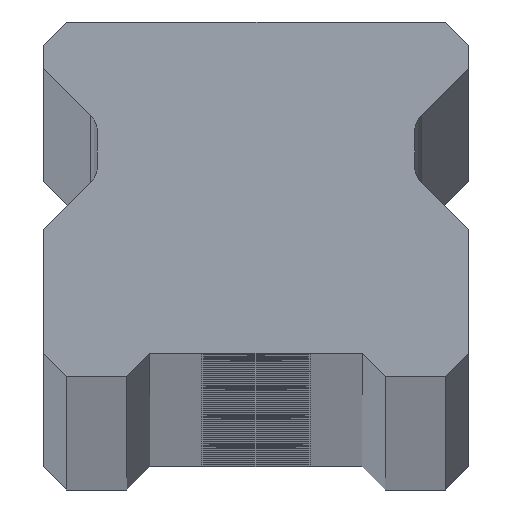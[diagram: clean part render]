
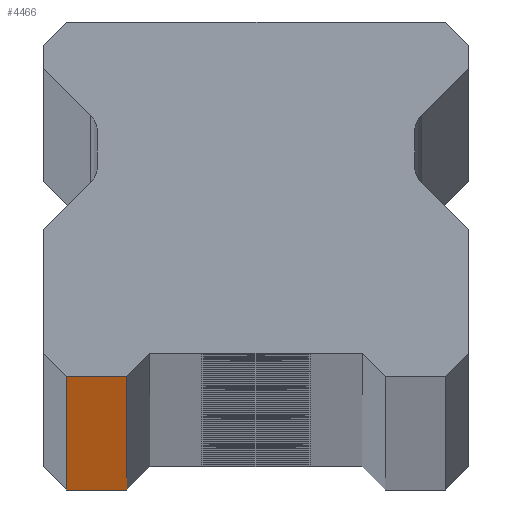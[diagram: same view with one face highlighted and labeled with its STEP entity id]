
A CAD part, top view. The second image highlights one B-rep face of the part: STEP entity #4466.
In plain terms, the highlighted planar face has unit normal (0, -1, 0).
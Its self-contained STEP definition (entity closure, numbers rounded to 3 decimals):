
#273 = VERTEX_POINT ( 'NONE', #11277 ) ;
#791 = EDGE_LOOP ( 'NONE', ( #3348, #7103, #7505, #3894 ) ) ;
#980 = DIRECTION ( 'NONE',  ( 0., 0., -1. ) ) ;
#1175 = LINE ( 'NONE', #10024, #6582 ) ;
#1246 = DIRECTION ( 'NONE',  ( 1., 0., 0. ) ) ;
#1676 = CARTESIAN_POINT ( 'NONE',  ( -10.25, 0., -1760. ) ) ;
#2476 = EDGE_CURVE ( 'NONE', #273, #9930, #1175, .T. ) ;
#2501 = DIRECTION ( 'NONE',  ( -1., 0., 0. ) ) ;
#2574 = PLANE ( 'NONE',  #9205 ) ;
#3348 = ORIENTED_EDGE ( 'NONE', *, *, #5949, .T. ) ;
#3894 = ORIENTED_EDGE ( 'NONE', *, *, #2476, .T. ) ;
#4466 = ADVANCED_FACE ( 'NONE', ( #11058 ), #2574, .F. ) ;
#4675 = CARTESIAN_POINT ( 'NONE',  ( -7., 0., 1760. ) ) ;
#4776 = VERTEX_POINT ( 'NONE', #9129 ) ;
#5153 = DIRECTION ( 'NONE',  ( 0., 0., 1. ) ) ;
#5565 = EDGE_CURVE ( 'NONE', #273, #11285, #6796, .T. ) ;
#5908 = CARTESIAN_POINT ( 'NONE',  ( 11.5, 0., -1760. ) ) ;
#5949 = EDGE_CURVE ( 'NONE', #9930, #4776, #8644, .T. ) ;
#6216 = VECTOR ( 'NONE', #1246, 1000. ) ;
#6582 = VECTOR ( 'NONE', #980, 1000. ) ;
#6796 = LINE ( 'NONE', #9334, #11038 ) ;
#7103 = ORIENTED_EDGE ( 'NONE', *, *, #8184, .T. ) ;
#7120 = DIRECTION ( 'NONE',  ( 0., 1., 0. ) ) ;
#7505 = ORIENTED_EDGE ( 'NONE', *, *, #5565, .F. ) ;
#7511 = DIRECTION ( 'NONE',  ( 1., 0., 0. ) ) ;
#7533 = VECTOR ( 'NONE', #5153, 1000. ) ;
#7664 = LINE ( 'NONE', #7785, #7533 ) ;
#7785 = CARTESIAN_POINT ( 'NONE',  ( -7., 0., -1760. ) ) ;
#8072 = CARTESIAN_POINT ( 'NONE',  ( 11.5, 0., 1760. ) ) ;
#8184 = EDGE_CURVE ( 'NONE', #4776, #11285, #7664, .T. ) ;
#8644 = LINE ( 'NONE', #5908, #6216 ) ;
#9129 = CARTESIAN_POINT ( 'NONE',  ( -7., 0., -1760. ) ) ;
#9205 = AXIS2_PLACEMENT_3D ( 'NONE', #8072, #7120, #2501 ) ;
#9334 = CARTESIAN_POINT ( 'NONE',  ( 11.5, 0., 1760. ) ) ;
#9930 = VERTEX_POINT ( 'NONE', #1676 ) ;
#10024 = CARTESIAN_POINT ( 'NONE',  ( -10.25, 0., 1760. ) ) ;
#11038 = VECTOR ( 'NONE', #7511, 1000. ) ;
#11058 = FACE_OUTER_BOUND ( 'NONE', #791, .T. ) ;
#11277 = CARTESIAN_POINT ( 'NONE',  ( -10.25, 0., 1760. ) ) ;
#11285 = VERTEX_POINT ( 'NONE', #4675 ) ;
